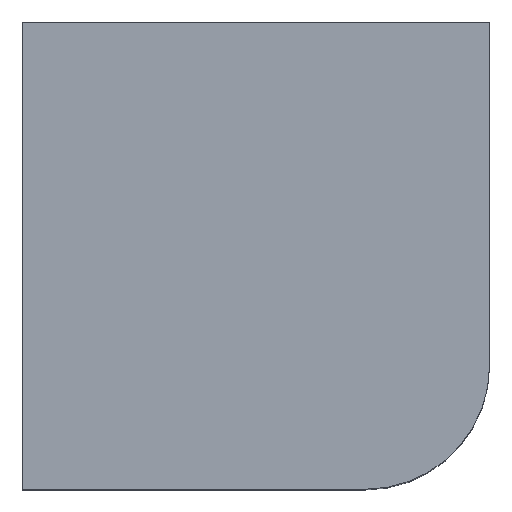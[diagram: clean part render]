
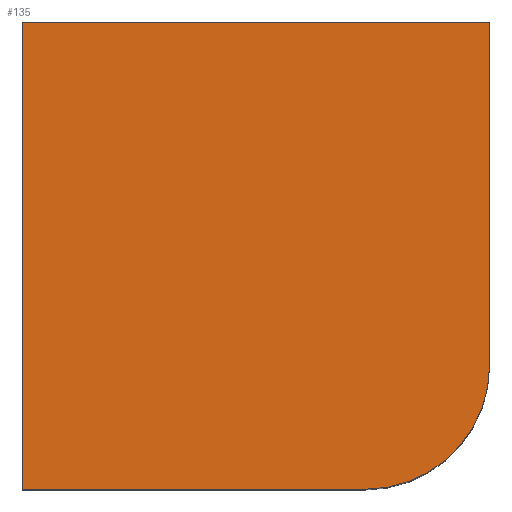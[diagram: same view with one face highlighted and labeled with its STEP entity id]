
A CAD part, top view. The second image highlights one B-rep face of the part: STEP entity #135.
In plain terms, the highlighted planar face has unit normal (0, 0, 1).
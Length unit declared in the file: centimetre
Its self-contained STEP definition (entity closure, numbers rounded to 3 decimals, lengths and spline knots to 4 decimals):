
#5 = LINE ( 'NONE', #300, #305 ) ;
#10 = CARTESIAN_POINT ( 'NONE',  ( 1000., 1000., 1000. ) ) ;
#15 = ORIENTED_EDGE ( 'NONE', *, *, #346, .T. ) ;
#20 = VERTEX_POINT ( 'NONE', #130 ) ;
#27 = LINE ( 'NONE', #83, #181 ) ;
#30 = DIRECTION ( 'NONE',  ( 0., 0., 1. ) ) ;
#53 = AXIS2_PLACEMENT_3D ( 'NONE', #188, #313, #99 ) ;
#61 = EDGE_CURVE ( 'NONE', #20, #68, #335, .T. ) ;
#68 = VERTEX_POINT ( 'NONE', #10 ) ;
#71 = LINE ( 'NONE', #119, #202 ) ;
#75 = DIRECTION ( 'NONE',  ( 0., 1., 0. ) ) ;
#76 = VERTEX_POINT ( 'NONE', #102 ) ;
#83 = CARTESIAN_POINT ( 'NONE',  ( 0., 1000., 1000. ) ) ;
#96 = DIRECTION ( 'NONE',  ( 1., 0., 0. ) ) ;
#99 = DIRECTION ( 'NONE',  ( 1., 0., 0. ) ) ;
#101 = ORIENTED_EDGE ( 'NONE', *, *, #61, .T. ) ;
#102 = CARTESIAN_POINT ( 'NONE',  ( 0., 1000., 1000. ) ) ;
#119 = CARTESIAN_POINT ( 'NONE',  ( 0., 1000., 1000. ) ) ;
#130 = CARTESIAN_POINT ( 'NONE',  ( 1000., 265.2875, 1000. ) ) ;
#135 = ADVANCED_FACE ( 'NONE', ( #334 ), #193, .T. ) ;
#142 = CARTESIAN_POINT ( 'NONE',  ( 734.7125, 0., 1000. ) ) ;
#146 = DIRECTION ( 'NONE',  ( 0., -1., 0. ) ) ;
#148 = CARTESIAN_POINT ( 'NONE',  ( 0., 0., 1000. ) ) ;
#152 = ORIENTED_EDGE ( 'NONE', *, *, #266, .T. ) ;
#171 = CIRCLE ( 'NONE', #290, 265.2875 ) ;
#181 = VECTOR ( 'NONE', #146, 100. ) ;
#185 = CARTESIAN_POINT ( 'NONE',  ( 1000., 1000., 1000. ) ) ;
#186 = EDGE_LOOP ( 'NONE', ( #219, #152, #101, #329, #15 ) ) ;
#188 = CARTESIAN_POINT ( 'NONE',  ( 0., 0., 1000. ) ) ;
#193 = PLANE ( 'NONE',  #53 ) ;
#202 = VECTOR ( 'NONE', #244, 100. ) ;
#210 = DIRECTION ( 'NONE',  ( 1., 0., 0. ) ) ;
#219 = ORIENTED_EDGE ( 'NONE', *, *, #281, .T. ) ;
#237 = VECTOR ( 'NONE', #75, 100. ) ;
#244 = DIRECTION ( 'NONE',  ( -1., 0., 0. ) ) ;
#266 = EDGE_CURVE ( 'NONE', #312, #20, #171, .T. ) ;
#279 = CARTESIAN_POINT ( 'NONE',  ( 734.7125, 265.2875, 1000. ) ) ;
#281 = EDGE_CURVE ( 'NONE', #284, #312, #5, .T. ) ;
#284 = VERTEX_POINT ( 'NONE', #148 ) ;
#290 = AXIS2_PLACEMENT_3D ( 'NONE', #279, #30, #210 ) ;
#297 = EDGE_CURVE ( 'NONE', #68, #76, #71, .T. ) ;
#300 = CARTESIAN_POINT ( 'NONE',  ( 0., 0., 1000. ) ) ;
#305 = VECTOR ( 'NONE', #96, 100. ) ;
#312 = VERTEX_POINT ( 'NONE', #142 ) ;
#313 = DIRECTION ( 'NONE',  ( 0., 0., 1. ) ) ;
#329 = ORIENTED_EDGE ( 'NONE', *, *, #297, .T. ) ;
#334 = FACE_OUTER_BOUND ( 'NONE', #186, .T. ) ;
#335 = LINE ( 'NONE', #185, #237 ) ;
#346 = EDGE_CURVE ( 'NONE', #76, #284, #27, .T. ) ;
